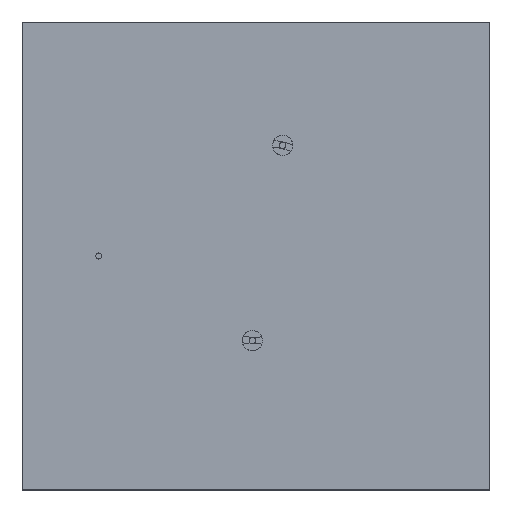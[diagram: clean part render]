
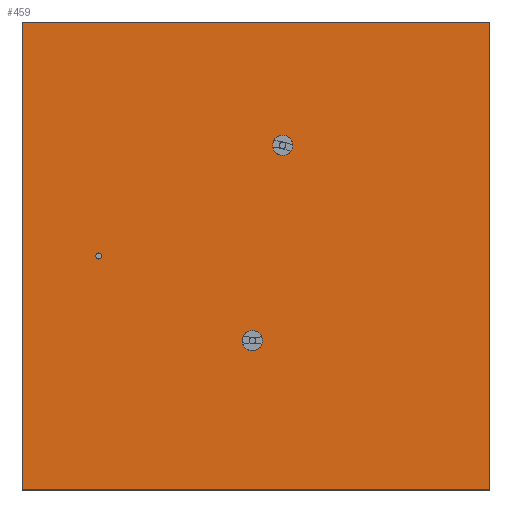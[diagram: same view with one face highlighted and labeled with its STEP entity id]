
A CAD part, top view. The second image highlights one B-rep face of the part: STEP entity #459.
In plain terms, the highlighted planar face has unit normal (0, 0, 1).
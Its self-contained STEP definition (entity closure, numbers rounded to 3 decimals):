
#459 = ADVANCED_FACE( '', ( #1104, #1105, #1106, #1107 ), #1108, .T. );
#1104 = FACE_BOUND( '', #2084, .T. );
#1105 = FACE_BOUND( '', #2085, .T. );
#1106 = FACE_BOUND( '', #2086, .T. );
#1107 = FACE_OUTER_BOUND( '', #2087, .T. );
#1108 = PLANE( '', #2088 );
#2084 = EDGE_LOOP( '', ( #3228 ) );
#2085 = EDGE_LOOP( '', ( #3229 ) );
#2086 = EDGE_LOOP( '', ( #3230 ) );
#2087 = EDGE_LOOP( '', ( #3231, #3232, #3233, #3234 ) );
#2088 = AXIS2_PLACEMENT_3D( '', #3235, #3236, #3237 );
#3228 = ORIENTED_EDGE( '', *, *, #5364, .F. );
#3229 = ORIENTED_EDGE( '', *, *, #5398, .F. );
#3230 = ORIENTED_EDGE( '', *, *, #5339, .F. );
#3231 = ORIENTED_EDGE( '', *, *, #5399, .T. );
#3232 = ORIENTED_EDGE( '', *, *, #5356, .T. );
#3233 = ORIENTED_EDGE( '', *, *, #5400, .T. );
#3234 = ORIENTED_EDGE( '', *, *, #5401, .T. );
#3235 = CARTESIAN_POINT( '', ( 0., 0., 30. ) );
#3236 = DIRECTION( '', ( 0., 0., 1. ) );
#3237 = DIRECTION( '', ( 1., 0., 0. ) );
#5339 = EDGE_CURVE( '', #6270, #6270, #6271, .T. );
#5356 = EDGE_CURVE( '', #6301, #6299, #6302, .T. );
#5364 = EDGE_CURVE( '', #6314, #6314, #6315, .T. );
#5398 = EDGE_CURVE( '', #6375, #6375, #6376, .T. );
#5399 = EDGE_CURVE( '', #6377, #6301, #6378, .T. );
#5400 = EDGE_CURVE( '', #6299, #6379, #6380, .T. );
#5401 = EDGE_CURVE( '', #6379, #6377, #6381, .T. );
#6270 = VERTEX_POINT( '', #7608 );
#6271 = CIRCLE( '', #7609, 25. );
#6299 = VERTEX_POINT( '', #7646 );
#6301 = VERTEX_POINT( '', #7649 );
#6302 = LINE( '', #7650, #7651 );
#6314 = VERTEX_POINT( '', #7668 );
#6315 = CIRCLE( '', #7669, 7.5 );
#6375 = VERTEX_POINT( '', #7757 );
#6376 = CIRCLE( '', #7758, 25. );
#6377 = VERTEX_POINT( '', #7759 );
#6378 = LINE( '', #7760, #7761 );
#6379 = VERTEX_POINT( '', #7762 );
#6380 = LINE( '', #7763, #7764 );
#6381 = LINE( '', #7765, #7766 );
#7608 = CARTESIAN_POINT( '', ( 597., 371., 30. ) );
#7609 = AXIS2_PLACEMENT_3D( '', #9194, #9195, #9196 );
#7646 = CARTESIAN_POINT( '', ( 0., 0., 30. ) );
#7649 = CARTESIAN_POINT( '', ( 0., 1162., 30. ) );
#7650 = CARTESIAN_POINT( '', ( 0., 1162., 30. ) );
#7651 = VECTOR( '', #9213, 1000. );
#7668 = CARTESIAN_POINT( '', ( 198.5, 581., 30. ) );
#7669 = AXIS2_PLACEMENT_3D( '', #9219, #9220, #9221 );
#7757 = CARTESIAN_POINT( '', ( 672., 855.5, 30. ) );
#7758 = AXIS2_PLACEMENT_3D( '', #9253, #9254, #9255 );
#7759 = CARTESIAN_POINT( '', ( 1162., 1162., 30. ) );
#7760 = CARTESIAN_POINT( '', ( 1162., 1162., 30. ) );
#7761 = VECTOR( '', #9256, 1000. );
#7762 = CARTESIAN_POINT( '', ( 1162., 0., 30. ) );
#7763 = CARTESIAN_POINT( '', ( 0., 0., 30. ) );
#7764 = VECTOR( '', #9257, 1000. );
#7765 = CARTESIAN_POINT( '', ( 1162., 0., 30. ) );
#7766 = VECTOR( '', #9258, 1000. );
#9194 = CARTESIAN_POINT( '', ( 572., 371., 30. ) );
#9195 = DIRECTION( '', ( 0., 0., 1. ) );
#9196 = DIRECTION( '', ( 1., 0., 0. ) );
#9213 = DIRECTION( '', ( 0., -1., 0. ) );
#9219 = CARTESIAN_POINT( '', ( 191., 581., 30. ) );
#9220 = DIRECTION( '', ( 0., 0., 1. ) );
#9221 = DIRECTION( '', ( 1., 0., 0. ) );
#9253 = CARTESIAN_POINT( '', ( 647., 855.5, 30. ) );
#9254 = DIRECTION( '', ( 0., 0., 1. ) );
#9255 = DIRECTION( '', ( 1., 0., 0. ) );
#9256 = DIRECTION( '', ( -1., 0., 0. ) );
#9257 = DIRECTION( '', ( 1., 0., 0. ) );
#9258 = DIRECTION( '', ( 0., 1., 0. ) );
